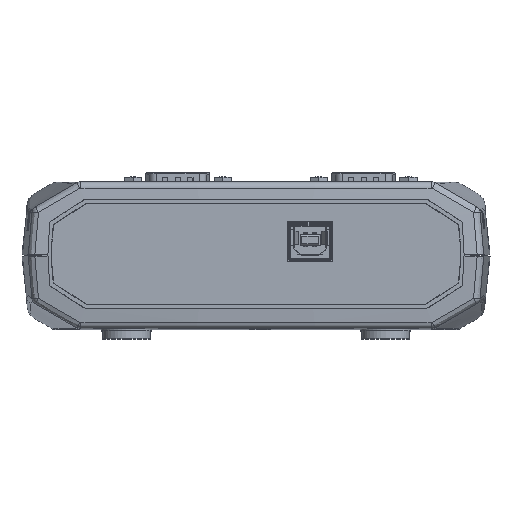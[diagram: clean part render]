
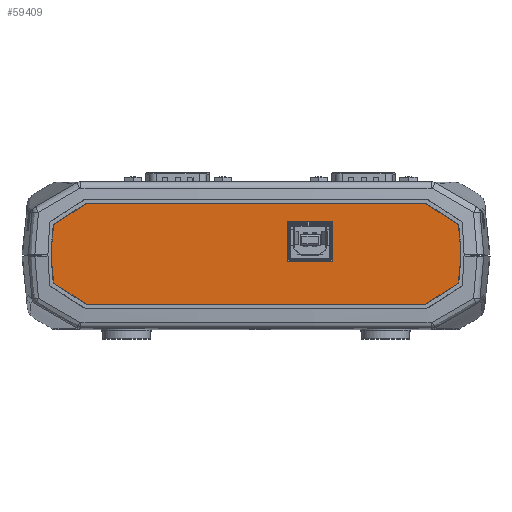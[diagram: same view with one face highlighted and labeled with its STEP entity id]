
A CAD part, top view. The second image highlights one B-rep face of the part: STEP entity #59409.
In plain terms, the highlighted planar face has unit normal (0, 0, 1).
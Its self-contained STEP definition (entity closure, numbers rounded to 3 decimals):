
#1201=FACE_BOUND('',#10174,.T.);
#2670=PLANE('',#64544);
#6307=FACE_OUTER_BOUND('',#10173,.T.);
#10173=EDGE_LOOP('',(#53351,#53352,#53353,#53354,#53355,#53356,#53357,#53358));
#10174=EDGE_LOOP('',(#53359,#53360,#53361,#53362));
#12444=CIRCLE('',#64545,57.048);
#12445=CIRCLE('',#64546,57.048);
#18321=LINE('',#134749,#23342);
#18322=LINE('',#134753,#23343);
#18323=LINE('',#134755,#23344);
#18324=LINE('',#134757,#23345);
#18325=LINE('',#134761,#23346);
#18326=LINE('',#134762,#23347);
#18327=LINE('',#134765,#23348);
#18328=LINE('',#134767,#23349);
#18329=LINE('',#134769,#23350);
#18330=LINE('',#134770,#23351);
#23342=VECTOR('',#79014,10.);
#23343=VECTOR('',#79017,10.);
#23344=VECTOR('',#79018,10.);
#23345=VECTOR('',#79019,10.);
#23346=VECTOR('',#79022,10.);
#23347=VECTOR('',#79023,10.);
#23348=VECTOR('',#79024,10.);
#23349=VECTOR('',#79025,10.);
#23350=VECTOR('',#79026,10.);
#23351=VECTOR('',#79027,10.);
#28889=VERTEX_POINT('',#134747);
#28890=VERTEX_POINT('',#134748);
#28891=VERTEX_POINT('',#134750);
#28892=VERTEX_POINT('',#134752);
#28893=VERTEX_POINT('',#134754);
#28894=VERTEX_POINT('',#134756);
#28895=VERTEX_POINT('',#134758);
#28896=VERTEX_POINT('',#134760);
#28897=VERTEX_POINT('',#134763);
#28898=VERTEX_POINT('',#134764);
#28899=VERTEX_POINT('',#134766);
#28900=VERTEX_POINT('',#134768);
#37194=EDGE_CURVE('',#28889,#28890,#18321,.T.);
#37195=EDGE_CURVE('',#28891,#28889,#12444,.T.);
#37196=EDGE_CURVE('',#28892,#28891,#18322,.T.);
#37197=EDGE_CURVE('',#28893,#28892,#18323,.T.);
#37198=EDGE_CURVE('',#28894,#28893,#18324,.T.);
#37199=EDGE_CURVE('',#28895,#28894,#12445,.T.);
#37200=EDGE_CURVE('',#28896,#28895,#18325,.T.);
#37201=EDGE_CURVE('',#28890,#28896,#18326,.T.);
#37202=EDGE_CURVE('',#28897,#28898,#18327,.T.);
#37203=EDGE_CURVE('',#28898,#28899,#18328,.T.);
#37204=EDGE_CURVE('',#28899,#28900,#18329,.T.);
#37205=EDGE_CURVE('',#28900,#28897,#18330,.T.);
#53351=ORIENTED_EDGE('',*,*,#37194,.F.);
#53352=ORIENTED_EDGE('',*,*,#37195,.F.);
#53353=ORIENTED_EDGE('',*,*,#37196,.F.);
#53354=ORIENTED_EDGE('',*,*,#37197,.F.);
#53355=ORIENTED_EDGE('',*,*,#37198,.F.);
#53356=ORIENTED_EDGE('',*,*,#37199,.F.);
#53357=ORIENTED_EDGE('',*,*,#37200,.F.);
#53358=ORIENTED_EDGE('',*,*,#37201,.F.);
#53359=ORIENTED_EDGE('',*,*,#37202,.T.);
#53360=ORIENTED_EDGE('',*,*,#37203,.T.);
#53361=ORIENTED_EDGE('',*,*,#37204,.T.);
#53362=ORIENTED_EDGE('',*,*,#37205,.T.);
#59409=ADVANCED_FACE('',(#6307,#1201),#2670,.T.);
#64544=AXIS2_PLACEMENT_3D('',#134746,#79012,#79013);
#64545=AXIS2_PLACEMENT_3D('',#134751,#79015,#79016);
#64546=AXIS2_PLACEMENT_3D('',#134759,#79020,#79021);
#79012=DIRECTION('center_axis',(0.,0.,1.));
#79013=DIRECTION('ref_axis',(1.,0.,0.));
#79014=DIRECTION('',(0.839,0.544,0.));
#79015=DIRECTION('center_axis',(0.,0.,-1.));
#79016=DIRECTION('ref_axis',(-0.99,0.143,0.));
#79017=DIRECTION('',(-0.839,0.544,0.));
#79018=DIRECTION('',(-1.,0.,0.));
#79019=DIRECTION('',(-0.839,-0.544,0.));
#79020=DIRECTION('center_axis',(0.,0.,-1.));
#79021=DIRECTION('ref_axis',(0.99,-0.143,0.));
#79022=DIRECTION('',(0.839,-0.544,0.));
#79023=DIRECTION('',(1.,0.,0.));
#79024=DIRECTION('',(0.,-1.,0.));
#79025=DIRECTION('',(-1.,0.,0.));
#79026=DIRECTION('',(0.,1.,0.));
#79027=DIRECTION('',(1.,0.,0.));
#134746=CARTESIAN_POINT('Origin',(0.,-9.05,6.));
#134747=CARTESIAN_POINT('',(-56.465,-0.914,6.));
#134748=CARTESIAN_POINT('',(-47.339,4.997,6.));
#134749=CARTESIAN_POINT('',(-47.322,5.008,6.));
#134750=CARTESIAN_POINT('',(-56.465,-17.186,6.));
#134751=CARTESIAN_POINT('Origin',(0.,-9.05,
6.));
#134752=CARTESIAN_POINT('',(-47.339,-23.097,6.));
#134753=CARTESIAN_POINT('',(-56.492,-17.168,6.));
#134754=CARTESIAN_POINT('',(47.339,-23.097,6.));
#134755=CARTESIAN_POINT('',(-47.36,-23.097,6.));
#134756=CARTESIAN_POINT('',(56.465,-17.186,6.));
#134757=CARTESIAN_POINT('',(47.322,-23.108,6.));
#134758=CARTESIAN_POINT('',(56.465,-0.914,6.));
#134759=CARTESIAN_POINT('Origin',(0.,-9.05,
6.));
#134760=CARTESIAN_POINT('',(47.339,4.997,6.));
#134761=CARTESIAN_POINT('',(56.492,-0.932,6.));
#134762=CARTESIAN_POINT('',(47.36,4.997,6.));
#134763=CARTESIAN_POINT('',(21.406,0.,6.));
#134764=CARTESIAN_POINT('',(21.406,-11.2,6.));
#134765=CARTESIAN_POINT('',(21.406,-4.525,6.));
#134766=CARTESIAN_POINT('',(8.676,-11.2,6.));
#134767=CARTESIAN_POINT('',(10.703,-11.2,6.));
#134768=CARTESIAN_POINT('',(8.676,0.,6.));
#134769=CARTESIAN_POINT('',(8.676,-10.125,6.));
#134770=CARTESIAN_POINT('',(4.338,0.,6.));
